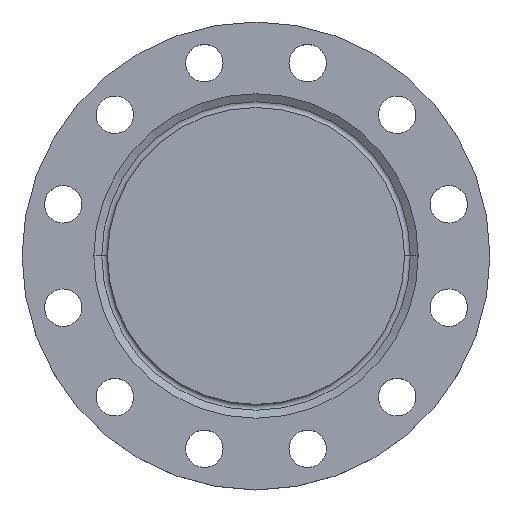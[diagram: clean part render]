
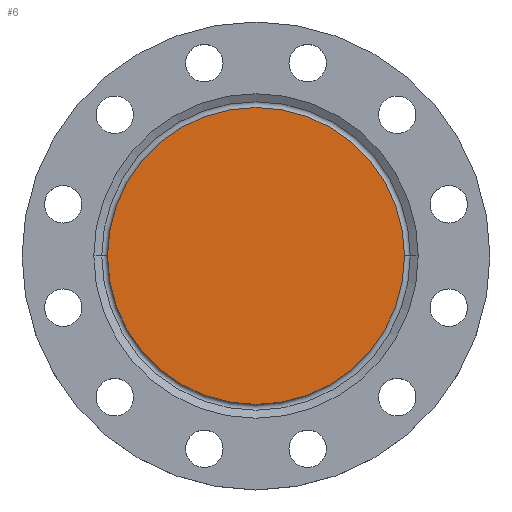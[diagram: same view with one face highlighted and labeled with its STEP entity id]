
A CAD part, top view. The second image highlights one B-rep face of the part: STEP entity #6.
In plain terms, the highlighted planar face has unit normal (0, 0, 1).
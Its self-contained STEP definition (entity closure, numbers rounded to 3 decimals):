
#6 = ADVANCED_FACE ( 'NONE', ( #991 ), #1099, .T. ) ;
#55 = EDGE_LOOP ( 'NONE', ( #280, #1193 ) ) ;
#100 = CARTESIAN_POINT ( 'NONE',  ( 0., 0., 0. ) ) ;
#195 = VERTEX_POINT ( 'NONE', #493 ) ;
#199 = DIRECTION ( 'NONE',  ( 0., 0., 1. ) ) ;
#280 = ORIENTED_EDGE ( 'NONE', *, *, #1295, .F. ) ;
#310 = DIRECTION ( 'NONE',  ( 1., 0., 0. ) ) ;
#317 = DIRECTION ( 'NONE',  ( -1., 0., 0. ) ) ;
#338 = DIRECTION ( 'NONE',  ( 0., 0., -1. ) ) ;
#403 = AXIS2_PLACEMENT_3D ( 'NONE', #1327, #338, #780 ) ;
#420 = CIRCLE ( 'NONE', #1267, 119. ) ;
#493 = CARTESIAN_POINT ( 'NONE',  ( -119., 0., 0. ) ) ;
#531 = EDGE_CURVE ( 'NONE', #1306, #195, #1020, .T. ) ;
#761 = CARTESIAN_POINT ( 'NONE',  ( 119., 0., 0. ) ) ;
#780 = DIRECTION ( 'NONE',  ( -1., 0., 0. ) ) ;
#869 = CARTESIAN_POINT ( 'NONE',  ( 0., 0., 0. ) ) ;
#991 = FACE_OUTER_BOUND ( 'NONE', #55, .T. ) ;
#1020 = CIRCLE ( 'NONE', #403, 119. ) ;
#1099 = PLANE ( 'NONE',  #1264 ) ;
#1193 = ORIENTED_EDGE ( 'NONE', *, *, #531, .F. ) ;
#1264 = AXIS2_PLACEMENT_3D ( 'NONE', #100, #199, #310 ) ;
#1267 = AXIS2_PLACEMENT_3D ( 'NONE', #869, #1308, #317 ) ;
#1295 = EDGE_CURVE ( 'NONE', #195, #1306, #420, .T. ) ;
#1306 = VERTEX_POINT ( 'NONE', #761 ) ;
#1308 = DIRECTION ( 'NONE',  ( 0., 0., -1. ) ) ;
#1327 = CARTESIAN_POINT ( 'NONE',  ( 0., 0., 0. ) ) ;
